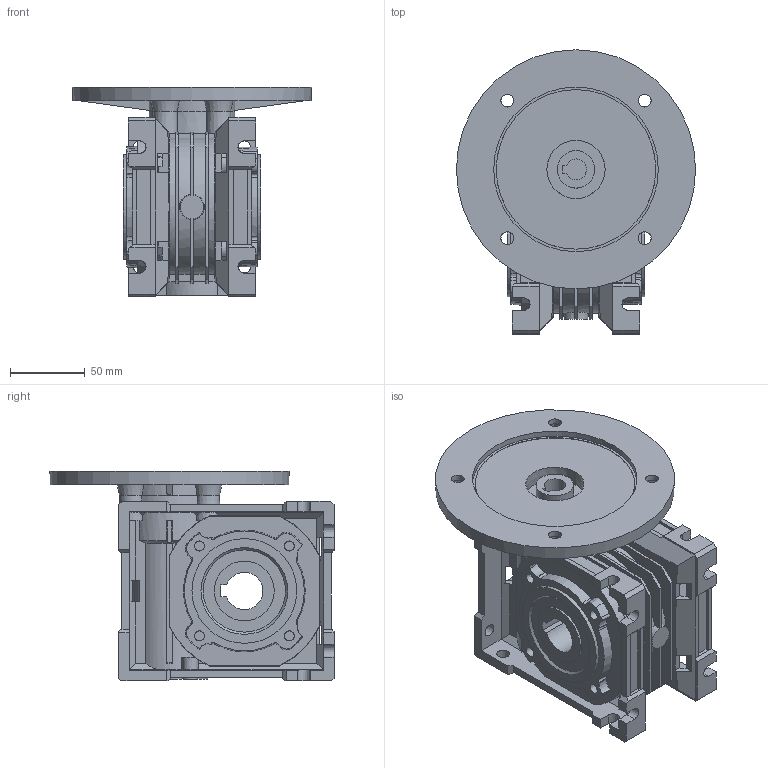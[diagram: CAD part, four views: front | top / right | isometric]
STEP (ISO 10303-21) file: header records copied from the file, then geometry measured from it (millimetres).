
FILE_DESCRIPTION( ( 'Unknown' ), '1' );
FILE_NAME( 'E:/services/configuratordownloads/customers/transtecno/cm/download/1DBAF5CA8B25CF7D37B60BC2ED5873/STEP/1DBAF5CA8B25CF7D37B60BC2ED5873.3d.stp', 'Unknown', ( 'Unknown' ), ( 'Unknown' ), 'PSStep 10.1', 'Unknown', ' ' );
FILE_SCHEMA( ( 'AUTOMOTIVE_DESIGN { 1 0 10303 214 1 1 1 1 }' ) );
Length unit declared in the file: millimetre
Products named in the file (1): 26c0e775-374b-44de-b122-931ea7db1836
Bounding box: 159.95 x 189.97 x 140 mm (x, y, z)
Volume: 1043601.7 mm3; surface area: 200963.3 mm2
Topology: 1 solids, 5 shells, 721 faces, 2031 edges, 1340 vertices
Faces by surface type: plane 533, cone 146, bspline 24, cylinder 18
Full cylindrical faces by diameter (mm): 25 x2, 40 x2, 47 x1, 55.1 x1, 70 x2, 110 x1
Entity records: 30733 total; most frequent: CARTESIAN_POINT 6895, ORIENTED_EDGE 3918, DIRECTION 3484, EDGE_CURVE 1959, VERTEX_POINT 1312, LINE 1224, VECTOR 1224, AXIS2_PLACEMENT_3D 1130
